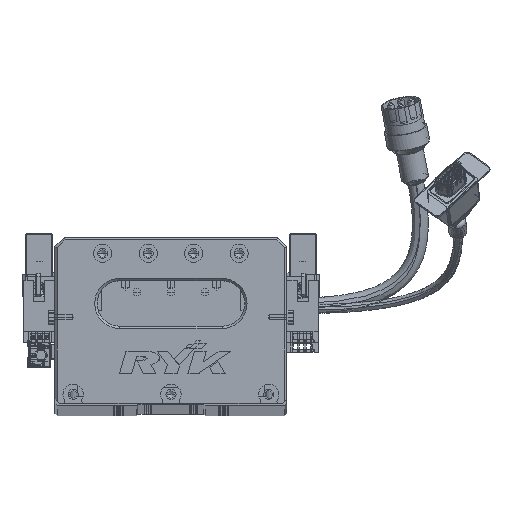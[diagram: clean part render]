
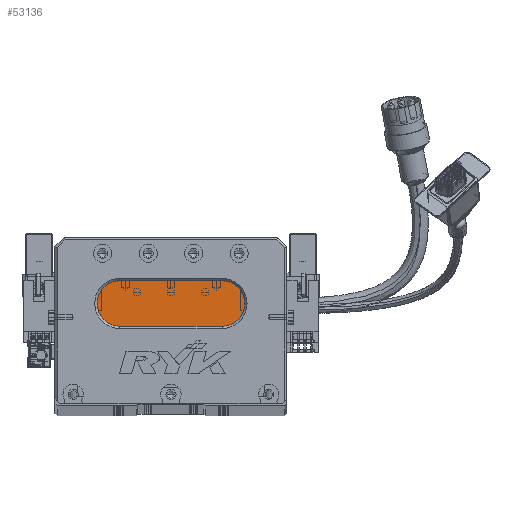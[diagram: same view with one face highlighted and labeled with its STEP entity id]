
A CAD part, top view. The second image highlights one B-rep face of the part: STEP entity #53136.
In plain terms, the highlighted planar face has unit normal (0, 0, 1) as drawn and (0, 0, -1) by its records, which use the part's own axes.
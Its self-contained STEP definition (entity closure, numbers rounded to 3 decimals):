
#1293 = VECTOR ( 'NONE', #14913, 1000. ) ;
#1684 = CARTESIAN_POINT ( 'NONE',  ( 73.5, 34., 13. ) ) ;
#5909 = DIRECTION ( 'NONE',  ( -1., 0., 0. ) ) ;
#5923 = CARTESIAN_POINT ( 'NONE',  ( 73.5, 34., 13. ) ) ;
#8234 = VERTEX_POINT ( 'NONE', #43087 ) ;
#8581 = DIRECTION ( 'NONE',  ( 0., 0., -1. ) ) ;
#12834 = ORIENTED_EDGE ( 'NONE', *, *, #52740, .T. ) ;
#14019 = CARTESIAN_POINT ( 'NONE',  ( 73.5, 54., 13. ) ) ;
#14913 = DIRECTION ( 'NONE',  ( -1., 0., 0. ) ) ;
#21350 = CARTESIAN_POINT ( 'NONE',  ( 28.5, 54., 13. ) ) ;
#21423 = ORIENTED_EDGE ( 'NONE', *, *, #80666, .T. ) ;
#27539 = EDGE_LOOP ( 'NONE', ( #12834, #53598, #21423, #48812, #71478 ) ) ;
#28197 = AXIS2_PLACEMENT_3D ( 'NONE', #44041, #32180, #44617 ) ;
#32180 = DIRECTION ( 'NONE',  ( 0., 0., -1. ) ) ;
#32285 = VERTEX_POINT ( 'NONE', #5923 ) ;
#32647 = CARTESIAN_POINT ( 'NONE',  ( 18.5, 44., 13. ) ) ;
#32983 = LINE ( 'NONE', #14019, #53705 ) ;
#35067 = CARTESIAN_POINT ( 'NONE',  ( 28.5, 44., 13. ) ) ;
#37966 = VERTEX_POINT ( 'NONE', #77838 ) ;
#40334 = VERTEX_POINT ( 'NONE', #32647 ) ;
#43087 = CARTESIAN_POINT ( 'NONE',  ( 28.5, 34., 13. ) ) ;
#44041 = CARTESIAN_POINT ( 'NONE',  ( 73.5, 44., 13. ) ) ;
#44617 = DIRECTION ( 'NONE',  ( -1., 0., 0. ) ) ;
#44833 = CARTESIAN_POINT ( 'NONE',  ( 28.5, 44., 13. ) ) ;
#45741 = LINE ( 'NONE', #1684, #1293 ) ;
#47502 = DIRECTION ( 'NONE',  ( 1., 0., 0. ) ) ;
#48812 = ORIENTED_EDGE ( 'NONE', *, *, #63659, .T. ) ;
#49792 = PLANE ( 'NONE',  #76938 ) ;
#52740 = EDGE_CURVE ( 'NONE', #37966, #32285, #76898, .T. ) ;
#53136 = ADVANCED_FACE ( 'NONE', ( #53177 ), #49792, .T. ) ;
#53177 = FACE_OUTER_BOUND ( 'NONE', #27539, .T. ) ;
#53598 = ORIENTED_EDGE ( 'NONE', *, *, #56669, .T. ) ;
#53705 = VECTOR ( 'NONE', #47502, 1000. ) ;
#54317 = CIRCLE ( 'NONE', #54606, 10. ) ;
#54606 = AXIS2_PLACEMENT_3D ( 'NONE', #44833, #78612, #5909 ) ;
#54766 = VERTEX_POINT ( 'NONE', #21350 ) ;
#56391 = CARTESIAN_POINT ( 'NONE',  ( 73.5, 44., 13. ) ) ;
#56669 = EDGE_CURVE ( 'NONE', #32285, #8234, #45741, .T. ) ;
#63659 = EDGE_CURVE ( 'NONE', #40334, #54766, #70301, .T. ) ;
#64248 = AXIS2_PLACEMENT_3D ( 'NONE', #35067, #8581, #81595 ) ;
#70301 = CIRCLE ( 'NONE', #64248, 10. ) ;
#70538 = DIRECTION ( 'NONE',  ( 0., 0., -1. ) ) ;
#71478 = ORIENTED_EDGE ( 'NONE', *, *, #74327, .T. ) ;
#74327 = EDGE_CURVE ( 'NONE', #54766, #37966, #32983, .T. ) ;
#76086 = DIRECTION ( 'NONE',  ( -1., 0., 0. ) ) ;
#76898 = CIRCLE ( 'NONE', #28197, 10. ) ;
#76938 = AXIS2_PLACEMENT_3D ( 'NONE', #56391, #70538, #76086 ) ;
#77838 = CARTESIAN_POINT ( 'NONE',  ( 73.5, 54., 13. ) ) ;
#78612 = DIRECTION ( 'NONE',  ( 0., 0., -1. ) ) ;
#80666 = EDGE_CURVE ( 'NONE', #8234, #40334, #54317, .T. ) ;
#81595 = DIRECTION ( 'NONE',  ( -1., 0., 0. ) ) ;
